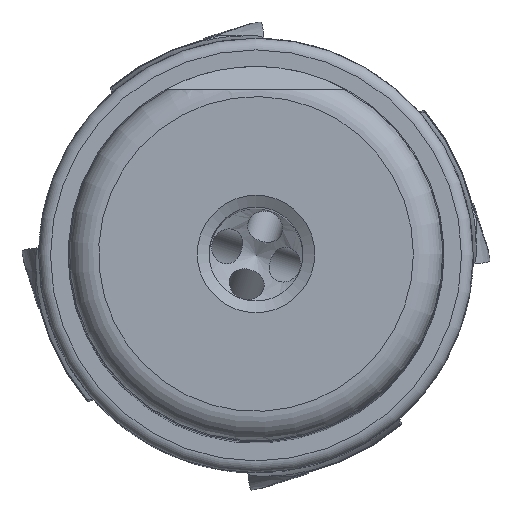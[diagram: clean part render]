
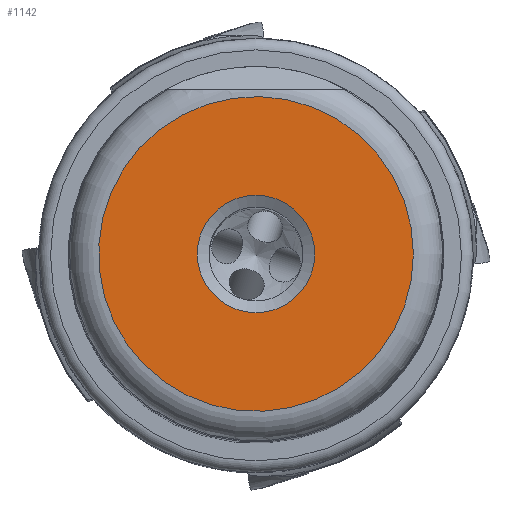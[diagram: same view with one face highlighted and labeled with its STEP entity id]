
A CAD part, top view. The second image highlights one B-rep face of the part: STEP entity #1142.
In plain terms, the highlighted planar face has unit normal (0, 0, 1).
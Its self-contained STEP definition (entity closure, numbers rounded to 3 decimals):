
#664=FACE_BOUND('',#1559,.T.);
#665=FACE_BOUND('',#1560,.T.);
#1142=ADVANCED_FACE('',(#664,#665),#1289,.F.);
#1289=PLANE('',#4461);
#1559=EDGE_LOOP('',(#2211));
#1560=EDGE_LOOP('',(#2212));
#2211=ORIENTED_EDGE('',*,*,#3749,.T.);
#2212=ORIENTED_EDGE('',*,*,#3726,.T.);
#3268=VERTEX_POINT('',#6765);
#3287=VERTEX_POINT('',#6938);
#3726=EDGE_CURVE('',#3268,#3268,#4206,.T.);
#3749=EDGE_CURVE('',#3287,#3287,#4214,.T.);
#4206=CIRCLE('',#4442,13.4);
#4214=CIRCLE('',#4460,5.);
#4442=AXIS2_PLACEMENT_3D('',#6764,#5020,#5021);
#4460=AXIS2_PLACEMENT_3D('',#6937,#5058,#5059);
#4461=AXIS2_PLACEMENT_3D('',#6939,#5060,#5061);
#5020=DIRECTION('',(0.,0.,1.));
#5021=DIRECTION('',(1.,0.,0.));
#5058=DIRECTION('',(0.,0.,-1.));
#5059=DIRECTION('',(-1.,0.,0.));
#5060=DIRECTION('',(0.,0.,-1.));
#5061=DIRECTION('',(1.,0.,0.));
#6764=CARTESIAN_POINT('',(0.,0.,0.));
#6765=CARTESIAN_POINT('',(13.4,0.,0.));
#6937=CARTESIAN_POINT('',(0.,0.,0.));
#6938=CARTESIAN_POINT('',(-5.,0.,0.));
#6939=CARTESIAN_POINT('',(-13.4,0.,0.));
